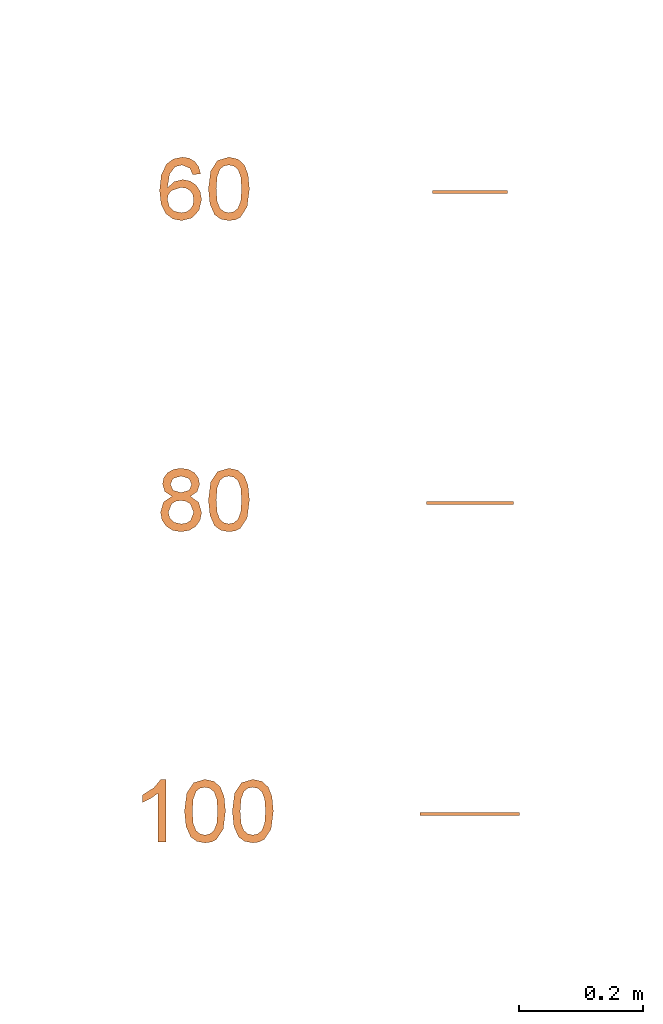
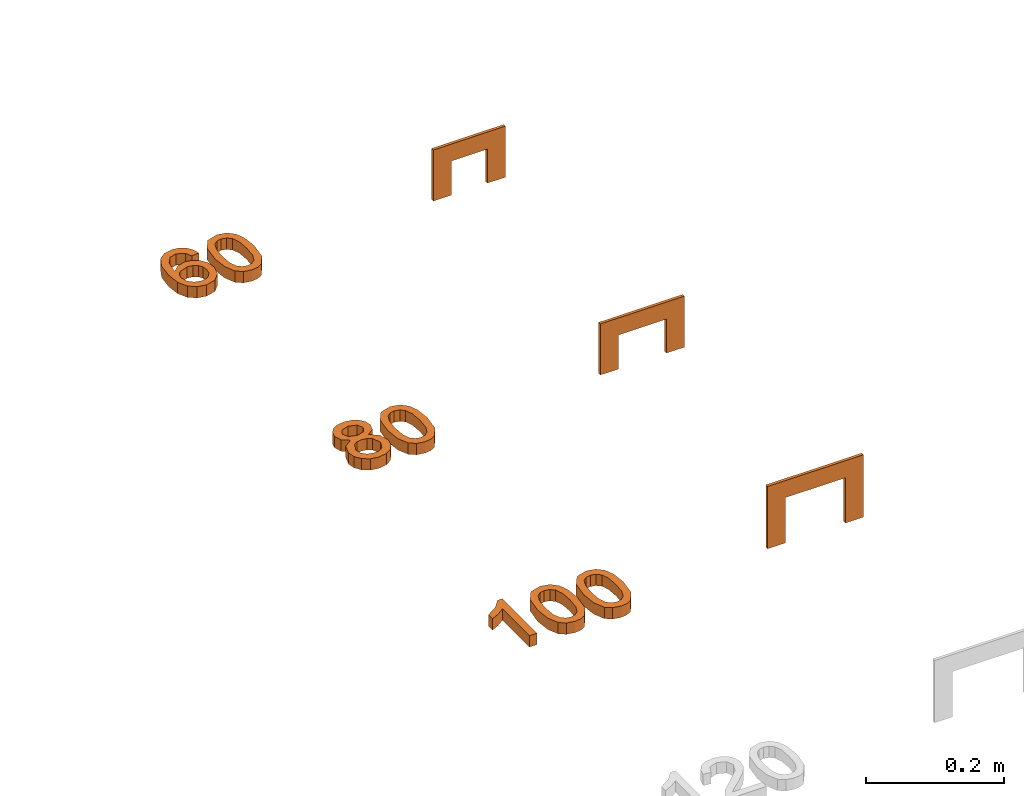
# One storey, part 66 of 71: 6 proxies.
"""IFC2X3 building model written with IfcOpenShell, lengths in millimetres."""

from ifc_helpers import new_model, entity, si_unit, converted_unit, derived_unit, direction, frame, origin, place, context, subcontext, project, spatial, polyline, outline, extrude, source, transform, mapped, material, type_object, type_shapes, element, save


model = new_model("IFC2X3")

# Units and contexts
model_context = context("Model", 3, precision=0.01, world=origin(), true_north=direction((6.12303176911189e-17, 1.0)))
body_context = subcontext(model_context, "Body", "Model", "MODEL_VIEW")
ifc_project = project(units=[si_unit("LENGTHUNIT", "METRE", prefix="MILLI"), si_unit("AREAUNIT", "SQUARE_METRE"), si_unit("VOLUMEUNIT", "CUBIC_METRE"), converted_unit("PLANEANGLEUNIT", "DEGREE", entity("IfcRatioMeasure", 0.0174532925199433), si_unit("PLANEANGLEUNIT", "RADIAN"), dimensions=[0, 0, 0, 0, 0, 0, 0]), si_unit("MASSUNIT", "GRAM", prefix="KILO"), derived_unit("MASSDENSITYUNIT", [(si_unit("MASSUNIT", "GRAM", prefix="KILO"), 1), (si_unit("LENGTHUNIT", "METRE"), -3)]), si_unit("TIMEUNIT", "SECOND"), si_unit("FREQUENCYUNIT", "HERTZ"), si_unit("THERMODYNAMICTEMPERATUREUNIT", "DEGREE_CELSIUS"), derived_unit("THERMALTRANSMITTANCEUNIT", [(si_unit("MASSUNIT", "GRAM", prefix="KILO"), 1), (si_unit("THERMODYNAMICTEMPERATUREUNIT", "KELVIN"), -1), (si_unit("TIMEUNIT", "SECOND"), -3)]), derived_unit("VOLUMETRICFLOWRATEUNIT", [(si_unit("LENGTHUNIT", "METRE"), 3), (si_unit("TIMEUNIT", "SECOND"), -1)]), si_unit("ELECTRICCURRENTUNIT", "AMPERE"), si_unit("ELECTRICVOLTAGEUNIT", "VOLT"), si_unit("POWERUNIT", "WATT"), si_unit("FORCEUNIT", "NEWTON", prefix="KILO"), si_unit("ILLUMINANCEUNIT", "LUX"), si_unit("LUMINOUSFLUXUNIT", "LUMEN"), si_unit("LUMINOUSINTENSITYUNIT", "CANDELA"), derived_unit("USERDEFINED", [(si_unit("MASSUNIT", "GRAM", prefix="KILO"), -1), (si_unit("LENGTHUNIT", "METRE"), -2), (si_unit("TIMEUNIT", "SECOND"), 3), (si_unit("LUMINOUSFLUXUNIT", "LUMEN"), 1)]), derived_unit("LINEARVELOCITYUNIT", [(si_unit("LENGTHUNIT", "METRE"), 1), (si_unit("TIMEUNIT", "SECOND"), -1)]), si_unit("PRESSUREUNIT", "PASCAL"), derived_unit("USERDEFINED", [(si_unit("LENGTHUNIT", "METRE"), -2), (si_unit("MASSUNIT", "GRAM", prefix="KILO"), 1), (si_unit("TIMEUNIT", "SECOND"), -2)])], contexts=[model_context])

# Site, building, storey
site_placement = place(None, origin())
site = spatial("IfcSite", under=ifc_project, at=site_placement, Name="Default", CompositionType="ELEMENT")
building_placement = place(site_placement, origin())
building = spatial("IfcBuilding", under=site, at=building_placement, Name="Наименование здания", CompositionType="ELEMENT")
storey_placement = place(building_placement, origin())
storey = spatial("IfcBuildingStorey", under=building, at=storey_placement, Name="Этаж 01", CompositionType="ELEMENT", Elevation=0.0)

# Proxies
ifc_material = material(Name="DKC_Пластик_Белый")
building_element_proxy_type_1 = type_object("IfcBuildingElementProxyType", Name="TA-GN 60x...", PredefinedType="NOTDEFINED", material=ifc_material)
shared_shape_1 = source(origin(), body_context, "Body", "SweptSolid", [
    extrude(outline(polyline([(-60.0, -52.4999999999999), (60.0, -52.4999999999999), (60.0, 37.5000000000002), (30.0, 37.5000000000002), (30.0, -22.5000000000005), (-30.0, -22.5000000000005), (-30.0, 37.5000000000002), (-60.0, 37.5000000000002), (-60.0, -52.4999999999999)])), frame((0.0, -5.0, 37.5000000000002), z_axis=(0.0, 1.0, 0.0), x_axis=(1.0, 0.0, 0.0)), (0.0, 0.0, 1.0), 5.00000000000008),
])
type_shapes(building_element_proxy_type_1, [shared_shape_1])
proxy_1_placement = place(storey_placement, frame((26885.9059986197, 3093.71330379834, 0.0)))
element("IfcBuildingElementProxy", 1, at=proxy_1_placement, inside=storey, type_object=building_element_proxy_type_1, material=ifc_material, Name="КНС_РамкаДляВводаRQM_ILC_DKC:TA-GN 60x...", ObjectType="TA-GN 60x...", context=body_context, shape_type="MappedRepresentation", body=[
    mapped(shared_shape_1, transform((0.0, 0.0, 0.0), scale=1.0)),
])
building_element_proxy_type_2 = type_object("IfcBuildingElementProxyType", Name="TA-GN 60x...", PredefinedType="NOTDEFINED", material=ifc_material)
shared_shape_2 = source(origin(), body_context, "Body", "SweptSolid", [
    extrude(outline(polyline([(-70.0, -52.5000000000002), (70.0, -52.5000000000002), (70.0, 37.5000000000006), (40.0, 37.5000000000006), (40.0, -22.5000000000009), (-40.0, -22.5000000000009), (-40.0, 37.5000000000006), (-70.0, 37.5000000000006), (-70.0, -52.5000000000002)])), frame((0.0, -5.0, 37.5000000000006), z_axis=(0.0, 1.0, 0.0), x_axis=(1.0, 0.0, 0.0)), (0.0, 0.0, 1.0), 5.00000000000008),
])
type_shapes(building_element_proxy_type_2, [shared_shape_2])
proxy_2_placement = place(storey_placement, frame((26885.9059986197, 2593.71330379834, 0.0)))
element("IfcBuildingElementProxy", 2, at=proxy_2_placement, inside=storey, type_object=building_element_proxy_type_2, material=ifc_material, Name="КНС_РамкаДляВводаRQM_ILC_DKC:TA-GN 60x...", ObjectType="TA-GN 60x...", context=body_context, shape_type="MappedRepresentation", body=[
    mapped(shared_shape_2, transform((0.0, 0.0, 0.0), scale=1.0)),
])
building_element_proxy_type_3 = type_object("IfcBuildingElementProxyType", Name="TA-GN 60x...", PredefinedType="NOTDEFINED", material=ifc_material)
shared_shape_3 = source(origin(), body_context, "Body", "SweptSolid", [
    extrude(outline(polyline([(-80.0, -62.5000000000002), (80.0, -62.5000000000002), (80.0, 47.5000000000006), (50.0, 47.5000000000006), (50.0, -32.5000000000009), (-50.0, -32.5000000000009), (-50.0, 47.5000000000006), (-80.0, 47.5000000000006), (-80.0, -62.5000000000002)])), frame((0.0, -5.0, 47.5000000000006), z_axis=(0.0, 1.0, 0.0), x_axis=(1.0, 0.0, 0.0)), (0.0, 0.0, 1.0), 5.00000000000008),
])
type_shapes(building_element_proxy_type_3, [shared_shape_3])
proxy_3_placement = place(storey_placement, frame((26885.9059986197, 2093.71330379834, 0.0)))
element("IfcBuildingElementProxy", 3, at=proxy_3_placement, inside=storey, type_object=building_element_proxy_type_3, material=ifc_material, Name="КНС_РамкаДляВводаRQM_ILC_DKC:TA-GN 60x...", ObjectType="TA-GN 60x...", context=body_context, shape_type="MappedRepresentation", body=[
    mapped(shared_shape_3, transform((0.0, 0.0, 0.0), scale=1.0)),
])
proxy_4_placement = place(storey_placement, origin())
element("IfcBuildingElementProxy", 4, at=proxy_4_placement, inside=storey, Name="Текст модели:100 мм Arial", ObjectType="Текст модели:100 мм Arial", context=body_context, shape_type="SweptSolid", body=[
    extrude(outline(polyline([(6.79275401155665, -32.5027761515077), (18.3659045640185, -32.5027761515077), (28.1525204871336, -28.8011371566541), (35.6312934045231, -21.7178704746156), (40.2809149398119, -11.5729874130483), (41.4130789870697, 3.23667074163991), (36.1391243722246, 16.3729018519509), (21.8599739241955, 28.8803269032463), (-1.5083682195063, 38.2054593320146), (-23.6059131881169, 41.7609274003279), (-39.9814227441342, 38.5965283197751), (-51.1650797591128, 29.9216784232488), (-57.6870671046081, 16.9457940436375), (-57.9805556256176, -0.0494879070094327), (-49.2081886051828, -14.3141019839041), (-33.6167855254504, -22.9350568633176), (-20.6265742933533, -24.2502330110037), (-8.97800352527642, -20.6254922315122), (0.0919027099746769, -13.035096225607), (5.34612034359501, -2.45330669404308), (5.85483161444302, 11.6447254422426), (-0.843339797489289, 24.9910631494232), (19.7707676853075, 15.5765036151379), (28.4840991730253, 4.26766164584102), (28.389351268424, -7.46374532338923), (19.9956250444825, -18.1936336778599), (8.63303585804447, -19.9825396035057), (6.79275401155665, -32.5027761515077)]), holes=[polyline([(-18.7586717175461, 29.9549594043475), (-11.6328110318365, 26.3613362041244), (-6.94154076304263, 20.2038317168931), (-5.85783236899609, 4.1376106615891), (-9.48331864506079, -3.95286412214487), (-15.1077394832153, -9.26901644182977), (-22.3091633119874, -11.5969098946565), (-30.6656585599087, -10.7226080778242), (-38.609449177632, -7.06141592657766), (-43.8637090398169, -1.22509865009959), (-46.183528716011, 6.17768396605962), (-45.3239987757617, 14.538272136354), (-39.6901171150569, 24.7221971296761), (-30.0168134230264, 30.0585493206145), (-18.7586717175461, 29.9549594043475)])]), frame((26423.4863219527, 3105.2124824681, 0.0), z_axis=(0.0, 0.0, 1.0), x_axis=(-0.267015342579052, 0.963692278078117, 0.0)), (0.0, 0.0, 1.0), 20.0),
    extrude(outline(polyline([(-7.02884310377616, -33.3490673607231), (17.5323805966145, -33.3490673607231), (35.1984171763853, -27.6137612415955), (43.3439841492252, -18.4876517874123), (47.0516941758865, -5.75150665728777), (46.716202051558, 4.48638208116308), (43.4465778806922, 13.0955287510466), (27.9444305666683, 25.6659118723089), (-0.314338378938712, 32.2325535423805), (-24.0296505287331, 32.367828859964), (-39.4143020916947, 28.0260881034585), (-49.7293680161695, 18.9002174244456), (-54.4436715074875, 4.63998875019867), (-50.8676582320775, -14.1301059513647), (-35.405854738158, -26.7333390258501), (-7.02884310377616, -33.3490673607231)]), holes=[polyline([(-5.77428774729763, -20.8548320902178), (-25.0157644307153, -17.3562860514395), (-36.725708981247, -11.5717922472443), (-41.0962588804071, -4.77599682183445), (-41.9669219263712, 3.21464792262), (-39.2244253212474, 11.2791292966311), (-32.8654063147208, 17.2229259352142), (-20.9698370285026, 20.2947501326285), (-1.61768958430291, 19.743314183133), (17.8514140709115, 16.2707701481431), (28.7803640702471, 10.7141596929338), (33.5546988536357, 3.61815959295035), (34.5599568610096, -4.47255337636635), (31.9421230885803, -12.192319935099), (25.8471825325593, -18.1754808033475), (14.0250679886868, -21.4027476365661), (-5.77428774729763, -20.8548320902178)])]), frame((26499.4438031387, 3092.487921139, 0.0), z_axis=(0.0, 0.0, 1.0), x_axis=(0.101851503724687, -0.994799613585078, 0.0)), (0.0, 0.0, 1.0), 20.0),
])
proxy_5_placement = place(storey_placement, origin())
element("IfcBuildingElementProxy", 5, at=proxy_5_placement, inside=storey, Name="Текст модели:100 мм Arial", ObjectType="Текст модели:100 мм Arial", context=body_context, shape_type="SweptSolid", body=[
    extrude(outline(polyline([(10.1224324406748, -11.2212127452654), (26.4477736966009, -11.2212127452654), (39.6861381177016, -0.0909413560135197), (44.6322314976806, 11.3078156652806), (44.5856416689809, 23.416860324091), (39.6073830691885, 34.834629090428), (29.758470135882, 44.1595584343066), (17.423605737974, 49.7956565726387), (4.98749274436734, 50.1469317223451), (-6.20047708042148, 45.7236060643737), (-14.7909119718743, 37.0359017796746), (-20.0781666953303, 21.0056847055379), (-14.5070621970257, 5.37692494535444), (-28.0684052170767, 5.15563707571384), (-37.722171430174, -2.60845010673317), (-41.5236361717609, -11.9357006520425), (-41.0036870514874, -22.2232653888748), (-36.1916154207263, -32.1870777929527), (-27.1167126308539, -40.5430713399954), (-16.0503295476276, -45.8123091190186), (-5.18246445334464, -46.5706787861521), (4.38453303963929, -43.2361071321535), (11.5483133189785, -36.226520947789), (15.2516244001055, -24.0826582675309), (10.1224324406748, -11.2212127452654)]), holes=[polyline([(1.34077476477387, -28.9039041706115), (-7.53771017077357, -33.9815875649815), (-20.2415350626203, -30.0339976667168), (-28.5905650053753, -19.6902819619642), (-26.9800933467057, -9.13787919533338), (-18.1108932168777, -3.87648928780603), (-5.4512816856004, -7.82385811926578), (3.15927028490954, -18.2403048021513), (1.34077476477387, -28.9039041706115)]), polyline([(29.0262968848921, 6.56051660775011), (17.180653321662, -1.51571690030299), (9.68494123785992, -1.27757268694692), (1.95268767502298, 2.32885586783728), (-4.4626709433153, 8.27886886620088), (-7.64161156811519, 15.301055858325), (-4.59707955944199, 29.6929468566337), (7.313336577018, 37.7994665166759), (14.8367372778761, 37.4872096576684), (22.6595729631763, 33.8012523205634), (30.3730358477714, 25.5864099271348), (32.5711030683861, 15.5727469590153), (29.0262968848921, 6.56051660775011)])]), frame((26421.6016079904, 2598.34577768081, 0.0), z_axis=(0.0, 0.0, 1.0), x_axis=(-0.829266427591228, -0.558853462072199, 0.0)), (0.0, 0.0, 1.0), 20.0),
    extrude(outline(polyline([(-7.02884310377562, -33.3490673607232), (17.5323805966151, -33.3490673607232), (35.1984171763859, -27.6137612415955), (43.3439841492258, -18.4876517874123), (47.051694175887, -5.75150665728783), (46.7162020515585, 4.48638208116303), (43.4465778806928, 13.0955287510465), (27.9444305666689, 25.6659118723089), (-0.314338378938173, 32.2325535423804), (-24.0296505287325, 32.367828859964), (-39.4143020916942, 28.0260881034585), (-49.729368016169, 18.9002174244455), (-54.4436715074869, 4.63998875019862), (-50.867658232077, -14.1301059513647), (-35.4058547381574, -26.7333390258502), (-7.02884310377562, -33.3490673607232)]), holes=[polyline([(-5.77428774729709, -20.8548320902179), (-25.0157644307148, -17.3562860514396), (-36.7257089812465, -11.5717922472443), (-41.0962588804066, -4.77599682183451), (-41.9669219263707, 3.21464792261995), (-39.2244253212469, 11.2791292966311), (-32.8654063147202, 17.2229259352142), (-20.969837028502, 20.2947501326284), (-1.61768958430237, 19.743314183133), (17.851414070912, 16.270770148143), (28.7803640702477, 10.7141596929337), (33.5546988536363, 3.61815959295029), (34.5599568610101, -4.47255337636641), (31.9421230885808, -12.192319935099), (25.8471825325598, -18.1754808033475), (14.0250679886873, -21.4027476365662), (-5.77428774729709, -20.8548320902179)])]), frame((26499.4438031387, 2592.487921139, 0.0), z_axis=(0.0, 0.0, 1.0), x_axis=(0.101851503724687, -0.994799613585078, 0.0)), (0.0, 0.0, 1.0), 20.0),
])
proxy_6_placement = place(storey_placement, origin())
element("IfcBuildingElementProxy", 6, at=proxy_6_placement, inside=storey, Name="Текст модели:100 мм Arial", ObjectType="Текст модели:100 мм Arial", context=body_context, shape_type="SweptSolid", body=[
    extrude(outline(polyline([(-63.8793021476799, -16.9184842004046), (36.5770080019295, -16.9184842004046), (36.5770080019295, -8.825080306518), (23.2106288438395, 2.34626961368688), (11.4629304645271, 20.7526321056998), (-0.407395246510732, 20.7526321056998), (5.93243780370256, 7.53340574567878), (14.4059864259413, -4.36144543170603), (-63.8793021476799, -4.36144543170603), (-63.8793021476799, -16.9184842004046)])), frame((26380.35488307, 2110.54404634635, 0.0), z_axis=(0.0, 0.0, 1.0), x_axis=(0.0, 1.0, 0.0)), (0.0, 0.0, 1.0), 20.0),
    extrude(outline(polyline([(-7.02884310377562, -33.3490673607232), (17.5323805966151, -33.3490673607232), (35.1984171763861, -27.6137612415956), (43.3439841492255, -18.4876517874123), (47.0516941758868, -5.75150665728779), (46.7162020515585, 4.48638208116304), (43.446577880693, 13.0955287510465), (27.9444305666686, 25.6659118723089), (-0.314338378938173, 32.2325535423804), (-24.0296505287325, 32.367828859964), (-39.4143020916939, 28.0260881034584), (-49.7293680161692, 18.9002174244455), (-54.4436715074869, 4.63998875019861), (-50.8676582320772, -14.1301059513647), (-35.4058547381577, -26.7333390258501), (-7.02884310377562, -33.3490673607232)]), holes=[polyline([(-5.77428774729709, -20.8548320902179), (-25.015764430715, -17.3562860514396), (-36.7257089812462, -11.5717922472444), (-41.0962588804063, -4.77599682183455), (-41.9669219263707, 3.21464792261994), (-39.2244253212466, 11.279129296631), (-32.8654063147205, 17.2229259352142), (-20.9698370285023, 20.2947501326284), (-1.61768958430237, 19.743314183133), (17.851414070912, 16.270770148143), (28.7803640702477, 10.7141596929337), (33.5546988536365, 3.61815959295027), (34.5599568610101, -4.4725533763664), (31.9421230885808, -12.192319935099), (25.8471825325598, -18.1754808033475), (14.0250679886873, -21.4027476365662), (-5.77428774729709, -20.8548320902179)])]), frame((26460.9878719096, 2092.487921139, 0.0), z_axis=(0.0, 0.0, 1.0), x_axis=(0.101851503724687, -0.994799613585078, 0.0)), (0.0, 0.0, 1.0), 20.0),
    extrude(outline(polyline([(-7.02884310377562, -33.3490673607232), (17.5323805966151, -33.3490673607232), (35.1984171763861, -27.6137612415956), (43.3439841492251, -18.4876517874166), (47.0516941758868, -5.75150665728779), (46.7162020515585, 4.48638208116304), (43.446577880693, 13.0955287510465), (27.9444305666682, 25.6659118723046), (-0.314338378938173, 32.2325535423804), (-24.0296505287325, 32.367828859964), (-39.4143020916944, 28.0260881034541), (-49.7293680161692, 18.9002174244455), (-54.4436715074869, 4.63998875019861), (-50.8676582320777, -14.130105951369), (-35.4058547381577, -26.7333390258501), (-7.02884310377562, -33.3490673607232)]), holes=[polyline([(-5.77428774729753, -20.8548320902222), (-25.015764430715, -17.3562860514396), (-36.7257089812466, -11.5717922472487), (-41.0962588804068, -4.77599682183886), (-41.9669219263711, 3.21464792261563), (-39.2244253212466, 11.279129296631), (-32.8654063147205, 17.2229259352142), (-20.9698370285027, 20.2947501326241), (-1.61768958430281, 19.7433141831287), (17.851414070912, 16.270770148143), (28.7803640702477, 10.7141596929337), (33.5546988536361, 3.61815959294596), (34.5599568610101, -4.4725533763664), (31.9421230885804, -12.1923199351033), (25.8471825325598, -18.1754808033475), (14.0250679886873, -21.4027476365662), (-5.77428774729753, -20.8548320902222)])]), frame((26537.8997343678, 2092.487921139, 0.0), z_axis=(0.0, 0.0, 1.0), x_axis=(0.101851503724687, -0.994799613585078, 0.0)), (0.0, 0.0, 1.0), 20.0),
])

save(model, "model.ifc")
